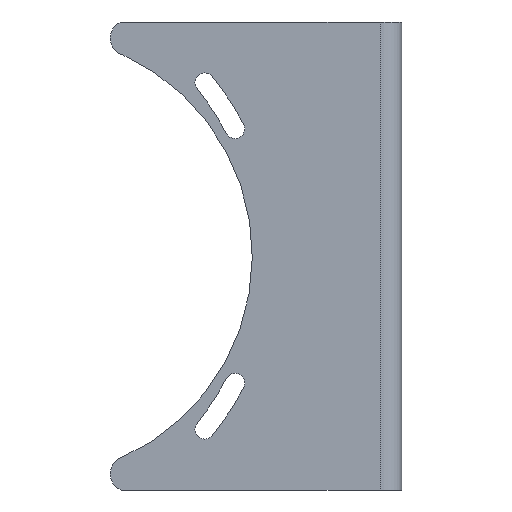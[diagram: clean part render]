
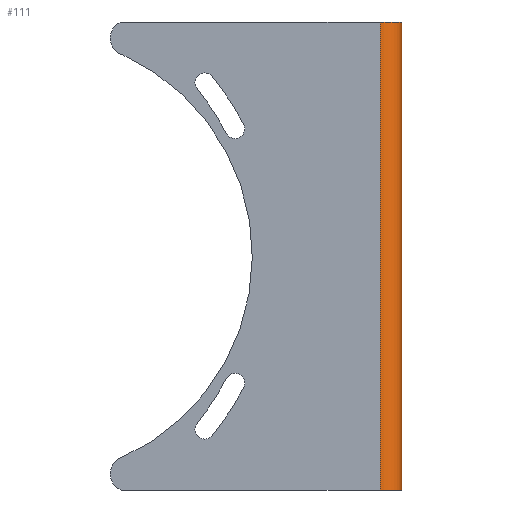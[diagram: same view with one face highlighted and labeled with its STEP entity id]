
A CAD part, front view. The second image highlights one B-rep face of the part: STEP entity #111.
In plain terms, the highlighted cylindrical face has radius 5 mm (diameter 10 mm), a partial arc.
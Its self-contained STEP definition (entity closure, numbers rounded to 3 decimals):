
#32 = CARTESIAN_POINT ( 'NONE',  ( 25.5, 6., -54. ) ) ;
#62 = LINE ( 'NONE', #412, #1183 ) ;
#77 = EDGE_CURVE ( 'NONE', #162, #1480, #1088, .T. ) ;
#93 = CARTESIAN_POINT ( 'NONE',  ( 20.5, 6., 54. ) ) ;
#94 = CIRCLE ( 'NONE', #150, 5. ) ;
#111 = ADVANCED_FACE ( 'NONE', ( #1127 ), #662, .T. ) ;
#131 = ORIENTED_EDGE ( 'NONE', *, *, #1022, .F. ) ;
#150 = AXIS2_PLACEMENT_3D ( 'NONE', #93, #328, #447 ) ;
#162 = VERTEX_POINT ( 'NONE', #32 ) ;
#165 = CARTESIAN_POINT ( 'NONE',  ( 20.5, 6., 108.181 ) ) ;
#170 = EDGE_CURVE ( 'NONE', #162, #1645, #62, .T. ) ;
#303 = CARTESIAN_POINT ( 'NONE',  ( 20.5, 1., -54. ) ) ;
#328 = DIRECTION ( 'NONE',  ( 0., 0., 1. ) ) ;
#412 = CARTESIAN_POINT ( 'NONE',  ( 25.5, 6., 0. ) ) ;
#447 = DIRECTION ( 'NONE',  ( -1., 0., 0. ) ) ;
#455 = LINE ( 'NONE', #796, #1245 ) ;
#531 = ORIENTED_EDGE ( 'NONE', *, *, #77, .F. ) ;
#542 = DIRECTION ( 'NONE',  ( 0., 0., -1. ) ) ;
#646 = ORIENTED_EDGE ( 'NONE', *, *, #170, .T. ) ;
#662 = CYLINDRICAL_SURFACE ( 'NONE', #1452, 5. ) ;
#796 = CARTESIAN_POINT ( 'NONE',  ( 20.5, 1., 0. ) ) ;
#805 = EDGE_LOOP ( 'NONE', ( #131, #531, #646, #838 ) ) ;
#838 = ORIENTED_EDGE ( 'NONE', *, *, #1648, .F. ) ;
#883 = VERTEX_POINT ( 'NONE', #1244 ) ;
#1022 = EDGE_CURVE ( 'NONE', #1480, #883, #455, .T. ) ;
#1039 = DIRECTION ( 'NONE',  ( 0., 0., 1. ) ) ;
#1088 = CIRCLE ( 'NONE', #1599, 5. ) ;
#1127 = FACE_OUTER_BOUND ( 'NONE', #805, .T. ) ;
#1183 = VECTOR ( 'NONE', #1039, 1000. ) ;
#1188 = DIRECTION ( 'NONE',  ( -1., 0., 0. ) ) ;
#1244 = CARTESIAN_POINT ( 'NONE',  ( 20.5, 1., 54. ) ) ;
#1245 = VECTOR ( 'NONE', #1564, 1000. ) ;
#1312 = CARTESIAN_POINT ( 'NONE',  ( 20.5, 6., -54. ) ) ;
#1323 = DIRECTION ( 'NONE',  ( 0., 0., -1. ) ) ;
#1428 = DIRECTION ( 'NONE',  ( -1., 0., 0. ) ) ;
#1452 = AXIS2_PLACEMENT_3D ( 'NONE', #165, #542, #1188 ) ;
#1480 = VERTEX_POINT ( 'NONE', #303 ) ;
#1564 = DIRECTION ( 'NONE',  ( 0., 0., 1. ) ) ;
#1599 = AXIS2_PLACEMENT_3D ( 'NONE', #1312, #1323, #1428 ) ;
#1637 = CARTESIAN_POINT ( 'NONE',  ( 25.5, 6., 54. ) ) ;
#1645 = VERTEX_POINT ( 'NONE', #1637 ) ;
#1648 = EDGE_CURVE ( 'NONE', #883, #1645, #94, .T. ) ;
